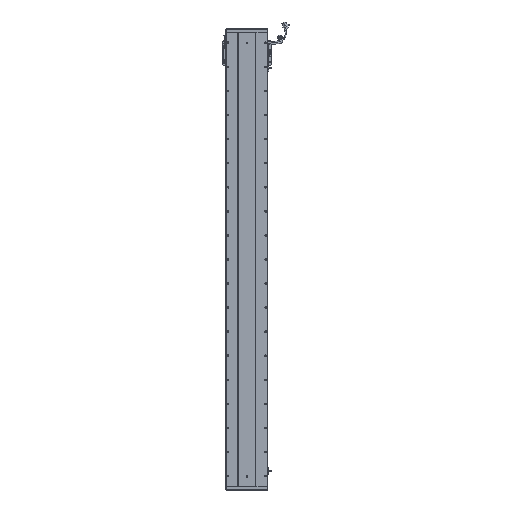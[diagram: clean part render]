
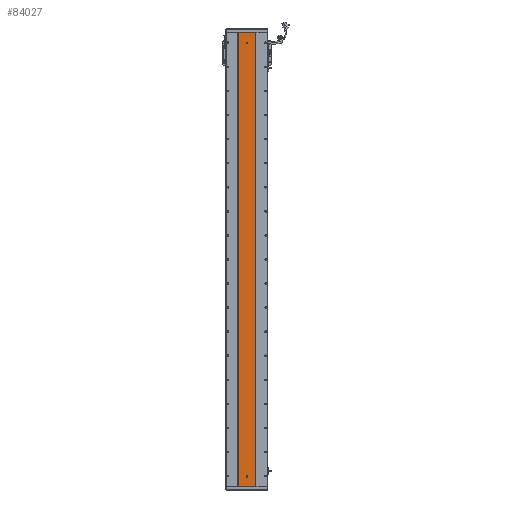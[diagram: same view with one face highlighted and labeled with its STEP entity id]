
A CAD part, front view. The second image highlights one B-rep face of the part: STEP entity #84027.
In plain terms, the highlighted planar face has unit normal (0, -1, 0).
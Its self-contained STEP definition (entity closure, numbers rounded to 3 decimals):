
#14 = VERTEX_POINT ( 'NONE', #74065 ) ;
#640 = EDGE_CURVE ( 'NONE', #54137, #20027, #35949, .T. ) ;
#989 = EDGE_CURVE ( 'NONE', #74118, #6561, #50171, .T. ) ;
#1048 = CARTESIAN_POINT ( 'NONE',  ( 3283.529, 1415.701, 42. ) ) ;
#1196 = VERTEX_POINT ( 'NONE', #2589 ) ;
#2589 = CARTESIAN_POINT ( 'NONE',  ( 3244.748, 1415.701, 0. ) ) ;
#3914 = EDGE_CURVE ( 'NONE', #6561, #50378, #87734, .T. ) ;
#5727 = ORIENTED_EDGE ( 'NONE', *, *, #100999, .F. ) ;
#6136 = EDGE_CURVE ( 'NONE', #1196, #77442, #106024, .T. ) ;
#6561 = VERTEX_POINT ( 'NONE', #101984 ) ;
#7423 = EDGE_CURVE ( 'NONE', #50378, #44715, #64012, .T. ) ;
#8145 = AXIS2_PLACEMENT_3D ( 'NONE', #50585, #34159, #75422 ) ;
#9229 = ORIENTED_EDGE ( 'NONE', *, *, #45368, .F. ) ;
#9283 = CARTESIAN_POINT ( 'NONE',  ( 3316.311, 1415.701, 1887. ) ) ;
#11069 = EDGE_LOOP ( 'NONE', ( #27666, #36637, #35989, #14578, #5727 ) ) ;
#11276 = ORIENTED_EDGE ( 'NONE', *, *, #95276, .T. ) ;
#11649 = ORIENTED_EDGE ( 'NONE', *, *, #6136, .T. ) ;
#12034 = LINE ( 'NONE', #21631, #31618 ) ;
#13715 = VECTOR ( 'NONE', #14769, 1000. ) ;
#14578 = ORIENTED_EDGE ( 'NONE', *, *, #989, .F. ) ;
#14769 = DIRECTION ( 'NONE',  ( 1., 0., 0. ) ) ;
#16133 = DIRECTION ( 'NONE',  ( 0., -1., 0. ) ) ;
#17138 = DIRECTION ( 'NONE',  ( 0., -1., 0. ) ) ;
#17649 = DIRECTION ( 'NONE',  ( 0., 0., 1. ) ) ;
#17851 = CARTESIAN_POINT ( 'NONE',  ( 3280.529, 1415.701, 1843.5 ) ) ;
#20027 = VERTEX_POINT ( 'NONE', #9283 ) ;
#20237 = DIRECTION ( 'NONE',  ( 1., 0., 0. ) ) ;
#20802 = FACE_OUTER_BOUND ( 'NONE', #40684, .T. ) ;
#21631 = CARTESIAN_POINT ( 'NONE',  ( 3316.311, 1415.701, 1887. ) ) ;
#21966 = CARTESIAN_POINT ( 'NONE',  ( 3283.529, 1415.701, 45. ) ) ;
#25245 = VERTEX_POINT ( 'NONE', #102304 ) ;
#25610 = CARTESIAN_POINT ( 'NONE',  ( 3280.529, 1415.701, 42. ) ) ;
#25689 = CIRCLE ( 'NONE', #26676, 3. ) ;
#26676 = AXIS2_PLACEMENT_3D ( 'NONE', #40658, #16133, #32570 ) ;
#26793 = CARTESIAN_POINT ( 'NONE',  ( 3244.748, 1415.701, 1887. ) ) ;
#27666 = ORIENTED_EDGE ( 'NONE', *, *, #62351, .F. ) ;
#28893 = VECTOR ( 'NONE', #20237, 1000. ) ;
#31615 = VERTEX_POINT ( 'NONE', #97125 ) ;
#31618 = VECTOR ( 'NONE', #53412, 1000. ) ;
#32570 = DIRECTION ( 'NONE',  ( 0., 0., -1. ) ) ;
#33282 = DIRECTION ( 'NONE',  ( 0., -1., 0. ) ) ;
#34065 = EDGE_CURVE ( 'NONE', #20027, #77442, #12034, .T. ) ;
#34159 = DIRECTION ( 'NONE',  ( 0., -1., 0. ) ) ;
#35656 = EDGE_CURVE ( 'NONE', #31615, #25245, #62632, .T. ) ;
#35949 = LINE ( 'NONE', #106482, #13715 ) ;
#35989 = ORIENTED_EDGE ( 'NONE', *, *, #3914, .F. ) ;
#36637 = ORIENTED_EDGE ( 'NONE', *, *, #7423, .F. ) ;
#38791 = CARTESIAN_POINT ( 'NONE',  ( 3244.748, 1415.701, 1887. ) ) ;
#40658 = CARTESIAN_POINT ( 'NONE',  ( 3280.529, 1415.701, 1843.5 ) ) ;
#40684 = EDGE_LOOP ( 'NONE', ( #11649, #94978, #95671, #11276 ) ) ;
#43458 = AXIS2_PLACEMENT_3D ( 'NONE', #26793, #67697, #17649 ) ;
#44715 = VERTEX_POINT ( 'NONE', #80889 ) ;
#45368 = EDGE_CURVE ( 'NONE', #25245, #31615, #25689, .T. ) ;
#50171 = LINE ( 'NONE', #21966, #90787 ) ;
#50378 = VERTEX_POINT ( 'NONE', #88614 ) ;
#50585 = CARTESIAN_POINT ( 'NONE',  ( 3280.529, 1415.701, 45. ) ) ;
#51934 = DIRECTION ( 'NONE',  ( 0., 0., -1. ) ) ;
#53412 = DIRECTION ( 'NONE',  ( 0., 0., -1. ) ) ;
#54137 = VERTEX_POINT ( 'NONE', #38791 ) ;
#57733 = DIRECTION ( 'NONE',  ( 0., 0., -1. ) ) ;
#59143 = DIRECTION ( 'NONE',  ( 0., 0., -1. ) ) ;
#62351 = EDGE_CURVE ( 'NONE', #44715, #14, #73843, .T. ) ;
#62632 = CIRCLE ( 'NONE', #88267, 3. ) ;
#62634 = VECTOR ( 'NONE', #51934, 1000. ) ;
#64012 = LINE ( 'NONE', #93256, #62634 ) ;
#64825 = CARTESIAN_POINT ( 'NONE',  ( 3316.311, 1415.701, 0. ) ) ;
#65675 = DIRECTION ( 'NONE',  ( 0., 0., -1. ) ) ;
#66278 = VECTOR ( 'NONE', #65675, 1000. ) ;
#67331 = PLANE ( 'NONE',  #43458 ) ;
#67697 = DIRECTION ( 'NONE',  ( 0., 1., 0. ) ) ;
#67762 = FACE_BOUND ( 'NONE', #80171, .T. ) ;
#70301 = CARTESIAN_POINT ( 'NONE',  ( 3244.748, 1415.701, 0. ) ) ;
#73843 = CIRCLE ( 'NONE', #81570, 3. ) ;
#74065 = CARTESIAN_POINT ( 'NONE',  ( 3280.529, 1415.701, 39. ) ) ;
#74118 = VERTEX_POINT ( 'NONE', #1048 ) ;
#75422 = DIRECTION ( 'NONE',  ( 0., 0., -1. ) ) ;
#75586 = CARTESIAN_POINT ( 'NONE',  ( 3280.529, 1415.701, 42. ) ) ;
#77442 = VERTEX_POINT ( 'NONE', #64825 ) ;
#78004 = LINE ( 'NONE', #82476, #66278 ) ;
#79769 = CIRCLE ( 'NONE', #82239, 3. ) ;
#80171 = EDGE_LOOP ( 'NONE', ( #9229, #91885 ) ) ;
#80889 = CARTESIAN_POINT ( 'NONE',  ( 3277.529, 1415.701, 42. ) ) ;
#81570 = AXIS2_PLACEMENT_3D ( 'NONE', #25610, #33282, #84057 ) ;
#82239 = AXIS2_PLACEMENT_3D ( 'NONE', #75586, #84023, #57733 ) ;
#82476 = CARTESIAN_POINT ( 'NONE',  ( 3244.748, 1415.701, 1887. ) ) ;
#84023 = DIRECTION ( 'NONE',  ( 0., -1., 0. ) ) ;
#84027 = ADVANCED_FACE ( 'NONE', ( #105812, #67762, #20802 ), #67331, .F. ) ;
#84057 = DIRECTION ( 'NONE',  ( 0., 0., -1. ) ) ;
#87734 = CIRCLE ( 'NONE', #8145, 3. ) ;
#88267 = AXIS2_PLACEMENT_3D ( 'NONE', #17851, #17138, #59143 ) ;
#88614 = CARTESIAN_POINT ( 'NONE',  ( 3277.529, 1415.701, 45. ) ) ;
#90787 = VECTOR ( 'NONE', #107823, 1000. ) ;
#91885 = ORIENTED_EDGE ( 'NONE', *, *, #35656, .F. ) ;
#93256 = CARTESIAN_POINT ( 'NONE',  ( 3277.529, 1415.701, 45. ) ) ;
#94978 = ORIENTED_EDGE ( 'NONE', *, *, #34065, .F. ) ;
#95276 = EDGE_CURVE ( 'NONE', #54137, #1196, #78004, .T. ) ;
#95671 = ORIENTED_EDGE ( 'NONE', *, *, #640, .F. ) ;
#97125 = CARTESIAN_POINT ( 'NONE',  ( 3280.529, 1415.701, 1846.5 ) ) ;
#100999 = EDGE_CURVE ( 'NONE', #14, #74118, #79769, .T. ) ;
#101984 = CARTESIAN_POINT ( 'NONE',  ( 3283.529, 1415.701, 45. ) ) ;
#102304 = CARTESIAN_POINT ( 'NONE',  ( 3280.529, 1415.701, 1840.5 ) ) ;
#105812 = FACE_BOUND ( 'NONE', #11069, .T. ) ;
#106024 = LINE ( 'NONE', #70301, #28893 ) ;
#106482 = CARTESIAN_POINT ( 'NONE',  ( 3244.748, 1415.701, 1887. ) ) ;
#107823 = DIRECTION ( 'NONE',  ( 0., 0., 1. ) ) ;
